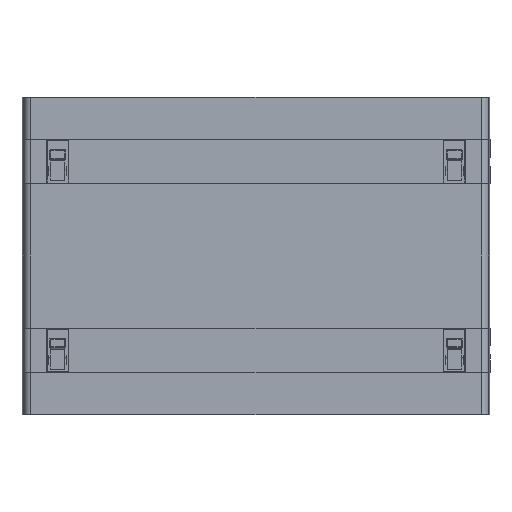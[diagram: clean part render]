
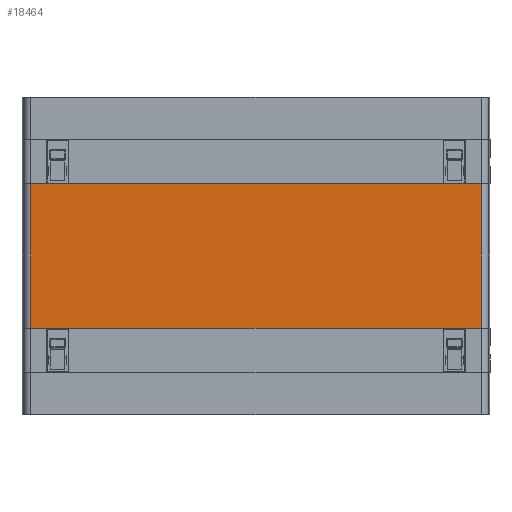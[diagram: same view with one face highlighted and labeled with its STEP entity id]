
A CAD part, front view. The second image highlights one B-rep face of the part: STEP entity #18464.
In plain terms, the highlighted planar face has unit normal (0, -1, 0).
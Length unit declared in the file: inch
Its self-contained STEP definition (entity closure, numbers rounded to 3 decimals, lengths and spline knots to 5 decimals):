
#1177 = DIRECTION ( 'NONE',  ( 0., 0., 1. ) ) ;
#1537 = FACE_OUTER_BOUND ( 'NONE', #54814, .T. ) ;
#5773 = VECTOR ( 'NONE', #92637, 39.37008 ) ;
#9964 = EDGE_CURVE ( 'NONE', #47186, #11813, #26953, .T. ) ;
#11660 = AXIS2_PLACEMENT_3D ( 'NONE', #24851, #49064, #1177 ) ;
#11813 = VERTEX_POINT ( 'NONE', #74090 ) ;
#18464 = ADVANCED_FACE ( 'NONE', ( #1537 ), #96871, .F. ) ;
#20931 = ORIENTED_EDGE ( 'NONE', *, *, #69325, .F. ) ;
#24695 = CARTESIAN_POINT ( 'NONE',  ( -9.361, 0., 2.236 ) ) ;
#24851 = CARTESIAN_POINT ( 'NONE',  ( 6.97974, 0., 4.925 ) ) ;
#26547 = CARTESIAN_POINT ( 'NONE',  ( -6.97974, 0., -2.236 ) ) ;
#26953 = LINE ( 'NONE', #100545, #5773 ) ;
#28115 = LINE ( 'NONE', #60013, #68331 ) ;
#28311 = ORIENTED_EDGE ( 'NONE', *, *, #96359, .T. ) ;
#41469 = VECTOR ( 'NONE', #43375, 39.37008 ) ;
#43375 = DIRECTION ( 'NONE',  ( 0., 0., -1. ) ) ;
#47186 = VERTEX_POINT ( 'NONE', #94618 ) ;
#49064 = DIRECTION ( 'NONE',  ( 0., 1., 0. ) ) ;
#53975 = ORIENTED_EDGE ( 'NONE', *, *, #94153, .T. ) ;
#54814 = EDGE_LOOP ( 'NONE', ( #28311, #53975, #99535, #20931 ) ) ;
#60013 = CARTESIAN_POINT ( 'NONE',  ( -9.361, 0., -2.236 ) ) ;
#60353 = DIRECTION ( 'NONE',  ( 1., 0., 0. ) ) ;
#68331 = VECTOR ( 'NONE', #60353, 39.37008 ) ;
#69325 = EDGE_CURVE ( 'NONE', #77485, #47186, #100102, .T. ) ;
#73326 = CARTESIAN_POINT ( 'NONE',  ( -6.97974, 0., 2.236 ) ) ;
#74090 = CARTESIAN_POINT ( 'NONE',  ( 6.97974, 0., -2.236 ) ) ;
#77485 = VERTEX_POINT ( 'NONE', #73326 ) ;
#78955 = LINE ( 'NONE', #91251, #41469 ) ;
#78987 = VERTEX_POINT ( 'NONE', #26547 ) ;
#80683 = DIRECTION ( 'NONE',  ( 1., 0., 0. ) ) ;
#81416 = VECTOR ( 'NONE', #80683, 39.37008 ) ;
#91251 = CARTESIAN_POINT ( 'NONE',  ( -6.97974, 0., 4.925 ) ) ;
#92637 = DIRECTION ( 'NONE',  ( 0., 0., -1. ) ) ;
#94153 = EDGE_CURVE ( 'NONE', #78987, #11813, #28115, .T. ) ;
#94618 = CARTESIAN_POINT ( 'NONE',  ( 6.97974, 0., 2.236 ) ) ;
#96359 = EDGE_CURVE ( 'NONE', #77485, #78987, #78955, .T. ) ;
#96871 = PLANE ( 'NONE',  #11660 ) ;
#99535 = ORIENTED_EDGE ( 'NONE', *, *, #9964, .F. ) ;
#100102 = LINE ( 'NONE', #24695, #81416 ) ;
#100545 = CARTESIAN_POINT ( 'NONE',  ( 6.97974, 0., 4.925 ) ) ;
